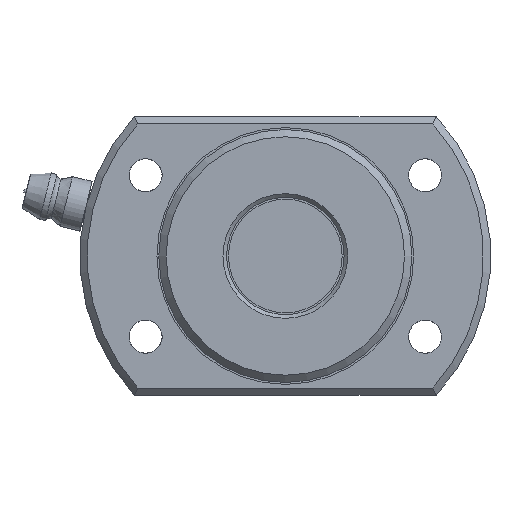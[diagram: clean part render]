
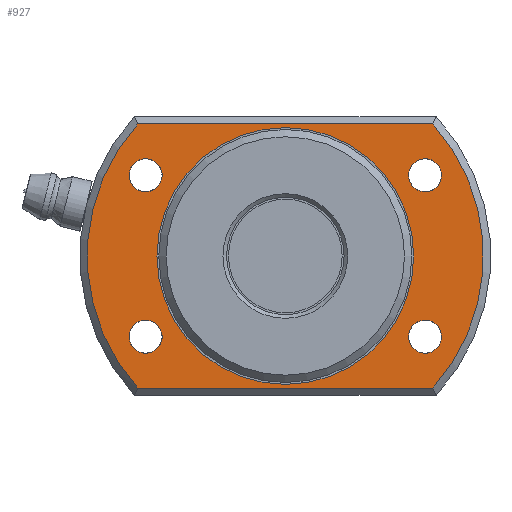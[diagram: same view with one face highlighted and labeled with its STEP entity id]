
A CAD part, left-side view. The second image highlights one B-rep face of the part: STEP entity #927.
In plain terms, the highlighted planar face has unit normal (-1, 0, 0).
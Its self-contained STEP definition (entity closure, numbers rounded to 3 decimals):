
#734=CARTESIAN_POINT('',(565.18,20.125,-18.));
#735=VERTEX_POINT('',#734);
#736=CARTESIAN_POINT('',(565.18,20.125,18.));
#737=VERTEX_POINT('',#736);
#738=CARTESIAN_POINT('',(565.18,0.0,0.0));
#739=DIRECTION('',(1.0,0.0,0.0));
#740=DIRECTION('',(0.0,1.0,0.0));
#741=AXIS2_PLACEMENT_3D('',#738,#739,#740);
#742=CIRCLE('',#741,27.0);
#743=EDGE_CURVE('',#735,#737,#742,.T.);
#776=CARTESIAN_POINT('',(565.18,-20.125,-18.0));
#777=VERTEX_POINT('',#776);
#785=CARTESIAN_POINT('',(565.18,-20.125,-18.0));
#786=DIRECTION('',(0.0,1.0,0.0));
#787=VECTOR('',#786,40.249);
#788=LINE('',#785,#787);
#789=EDGE_CURVE('',#777,#735,#788,.T.);
#800=CARTESIAN_POINT('',(565.18,-20.125,18.));
#801=VERTEX_POINT('',#800);
#802=CARTESIAN_POINT('',(565.18,0.0,0.0));
#803=DIRECTION('',(1.0,0.0,0.0));
#804=DIRECTION('',(0.0,-1.0,0.0));
#805=AXIS2_PLACEMENT_3D('',#802,#803,#804);
#806=CIRCLE('',#805,27.0);
#807=EDGE_CURVE('',#801,#777,#806,.T.);
#834=CARTESIAN_POINT('',(565.18,20.125,18.));
#835=DIRECTION('',(0.0,-1.0,0.0));
#836=VECTOR('',#835,40.249);
#837=LINE('',#834,#836);
#838=EDGE_CURVE('',#737,#801,#837,.T.);
#861=CARTESIAN_POINT('',(565.18,22.75,0.0));
#862=DIRECTION('',(-1.0,0.0,0.0));
#863=DIRECTION('',(0.0,0.0,1.0));
#864=AXIS2_PLACEMENT_3D('',#861,#862,#863);
#865=PLANE('',#864);
#866=ORIENTED_EDGE('',*,*,#743,.F.);
#867=ORIENTED_EDGE('',*,*,#789,.F.);
#868=ORIENTED_EDGE('',*,*,#807,.F.);
#869=ORIENTED_EDGE('',*,*,#838,.F.);
#870=EDGE_LOOP('',(#866,#867,#868,#869));
#871=FACE_OUTER_BOUND('',#870,.T.);
#872=CARTESIAN_POINT('',(565.18,17.5,0.0));
#873=VERTEX_POINT('',#872);
#874=CARTESIAN_POINT('',(565.18,0.0,0.0));
#875=DIRECTION('',(1.0,0.0,0.0));
#876=DIRECTION('',(0.0,1.0,0.0));
#877=AXIS2_PLACEMENT_3D('',#874,#875,#876);
#878=CIRCLE('',#877,17.5);
#879=EDGE_CURVE('',#873,#873,#878,.T.);
#880=ORIENTED_EDGE('',*,*,#879,.T.);
#881=EDGE_LOOP('',(#880));
#882=FACE_BOUND('',#881,.T.);
#883=CARTESIAN_POINT('',(565.18,-19.053,13.25));
#884=VERTEX_POINT('',#883);
#885=CARTESIAN_POINT('',(565.18,-19.053,11.));
#886=DIRECTION('',(1.0,0.0,0.0));
#887=DIRECTION('',(0.0,0.0,1.0));
#888=AXIS2_PLACEMENT_3D('',#885,#886,#887);
#889=CIRCLE('',#888,2.25);
#890=EDGE_CURVE('',#884,#884,#889,.T.);
#891=ORIENTED_EDGE('',*,*,#890,.T.);
#892=EDGE_LOOP('',(#891));
#893=FACE_BOUND('',#892,.T.);
#894=CARTESIAN_POINT('',(565.18,19.053,-8.75));
#895=VERTEX_POINT('',#894);
#896=CARTESIAN_POINT('',(565.18,19.053,-11.));
#897=DIRECTION('',(1.0,0.0,0.0));
#898=DIRECTION('',(0.0,0.0,1.0));
#899=AXIS2_PLACEMENT_3D('',#896,#897,#898);
#900=CIRCLE('',#899,2.25);
#901=EDGE_CURVE('',#895,#895,#900,.T.);
#902=ORIENTED_EDGE('',*,*,#901,.T.);
#903=EDGE_LOOP('',(#902));
#904=FACE_BOUND('',#903,.T.);
#905=CARTESIAN_POINT('',(565.18,19.053,13.25));
#906=VERTEX_POINT('',#905);
#907=CARTESIAN_POINT('',(565.18,19.053,11.));
#908=DIRECTION('',(1.0,0.0,0.0));
#909=DIRECTION('',(0.0,0.0,1.0));
#910=AXIS2_PLACEMENT_3D('',#907,#908,#909);
#911=CIRCLE('',#910,2.25);
#912=EDGE_CURVE('',#906,#906,#911,.T.);
#913=ORIENTED_EDGE('',*,*,#912,.T.);
#914=EDGE_LOOP('',(#913));
#915=FACE_BOUND('',#914,.T.);
#916=CARTESIAN_POINT('',(565.18,-19.053,-8.75));
#917=VERTEX_POINT('',#916);
#918=CARTESIAN_POINT('',(565.18,-19.053,-11.));
#919=DIRECTION('',(1.0,0.0,0.0));
#920=DIRECTION('',(0.0,0.0,1.0));
#921=AXIS2_PLACEMENT_3D('',#918,#919,#920);
#922=CIRCLE('',#921,2.25);
#923=EDGE_CURVE('',#917,#917,#922,.T.);
#924=ORIENTED_EDGE('',*,*,#923,.T.);
#925=EDGE_LOOP('',(#924));
#926=FACE_BOUND('',#925,.T.);
#927=ADVANCED_FACE('',(#871,#882,#893,#904,#915,#926),#865,.T.);
